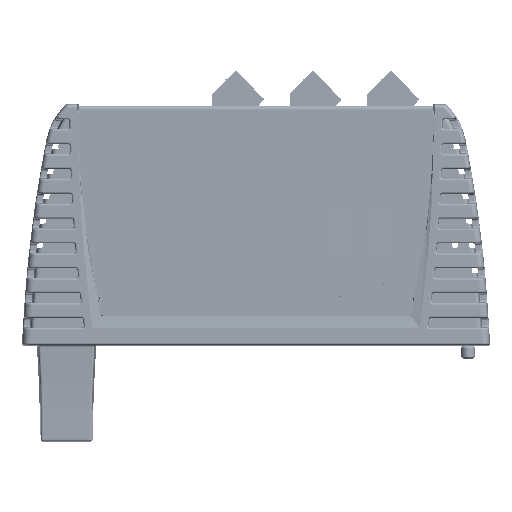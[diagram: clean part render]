
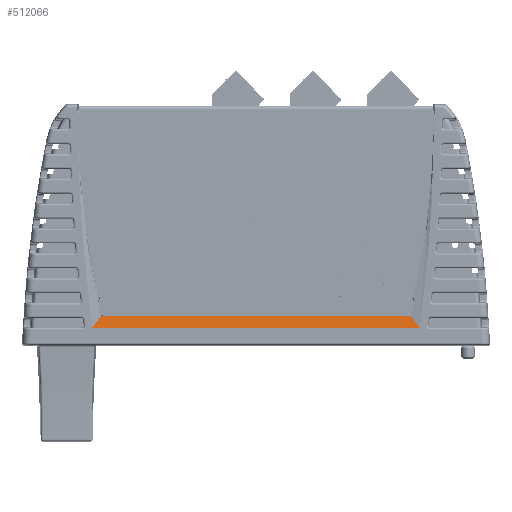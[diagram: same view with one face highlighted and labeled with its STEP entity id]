
A CAD part, left-side view. The second image highlights one B-rep face of the part: STEP entity #512066.
In plain terms, the highlighted planar face has unit normal (-0.986, 0, 0.164).
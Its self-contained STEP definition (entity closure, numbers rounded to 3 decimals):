
#43713 = VECTOR ( 'NONE', #256758, 1000. ) ;
#48177 = ORIENTED_EDGE ( 'NONE', *, *, #410746, .F. ) ;
#61171 = EDGE_CURVE ( 'NONE', #499986, #399847, #443530, .T. ) ;
#85565 = FACE_OUTER_BOUND ( 'NONE', #144264, .T. ) ;
#105266 = CARTESIAN_POINT ( 'NONE',  ( -8.2, 39., -24.5 ) ) ;
#108850 = EDGE_CURVE ( 'NONE', #473849, #399847, #336167, .T. ) ;
#144264 = EDGE_LOOP ( 'NONE', ( #226006, #48177, #383108, #414903 ) ) ;
#145050 = LINE ( 'NONE', #462202, #355104 ) ;
#191510 = CARTESIAN_POINT ( 'NONE',  ( -8.7, 41.25, -27.5 ) ) ;
#198751 = DIRECTION ( 'NONE',  ( 0.164, 0., 0.986 ) ) ;
#214672 = CARTESIAN_POINT ( 'NONE',  ( -8.7, 41.25, -27.5 ) ) ;
#220112 = VERTEX_POINT ( 'NONE', #191510 ) ;
#221321 = CARTESIAN_POINT ( 'NONE',  ( -8.2, 39., -24.5 ) ) ;
#226006 = ORIENTED_EDGE ( 'NONE', *, *, #449914, .F. ) ;
#256758 = DIRECTION ( 'NONE',  ( 0., 1., 0. ) ) ;
#266888 = LINE ( 'NONE', #214672, #43713 ) ;
#284493 = AXIS2_PLACEMENT_3D ( 'NONE', #365666, #450004, #198751 ) ;
#305016 = CARTESIAN_POINT ( 'NONE',  ( -8.7, -41.25, -27.5 ) ) ;
#318759 = VECTOR ( 'NONE', #467082, 1000. ) ;
#324352 = CARTESIAN_POINT ( 'NONE',  ( -8.2, -39., -24.5 ) ) ;
#336167 = LINE ( 'NONE', #105266, #447729 ) ;
#340576 = CARTESIAN_POINT ( 'NONE',  ( -8.45, -40.125, -26. ) ) ;
#355104 = VECTOR ( 'NONE', #504443, 1000. ) ;
#365666 = CARTESIAN_POINT ( 'NONE',  ( 0.467, 0., 27.5 ) ) ;
#383108 = ORIENTED_EDGE ( 'NONE', *, *, #61171, .T. ) ;
#399847 = VERTEX_POINT ( 'NONE', #324352 ) ;
#407905 = PLANE ( 'NONE',  #284493 ) ;
#410746 = EDGE_CURVE ( 'NONE', #499986, #220112, #266888, .T. ) ;
#414903 = ORIENTED_EDGE ( 'NONE', *, *, #108850, .F. ) ;
#443530 = LINE ( 'NONE', #340576, #318759 ) ;
#447729 = VECTOR ( 'NONE', #481371, 1000. ) ;
#449914 = EDGE_CURVE ( 'NONE', #220112, #473849, #145050, .T. ) ;
#450004 = DIRECTION ( 'NONE',  ( 0.986, 0., -0.164 ) ) ;
#462202 = CARTESIAN_POINT ( 'NONE',  ( -8.7, 41.25, -27.5 ) ) ;
#467082 = DIRECTION ( 'NONE',  ( 0.132, 0.595, 0.793 ) ) ;
#473849 = VERTEX_POINT ( 'NONE', #221321 ) ;
#481371 = DIRECTION ( 'NONE',  ( 0., -1., 0. ) ) ;
#499986 = VERTEX_POINT ( 'NONE', #305016 ) ;
#504443 = DIRECTION ( 'NONE',  ( 0.132, -0.595, 0.793 ) ) ;
#512066 = ADVANCED_FACE ( 'NONE', ( #85565 ), #407905, .F. ) ;
